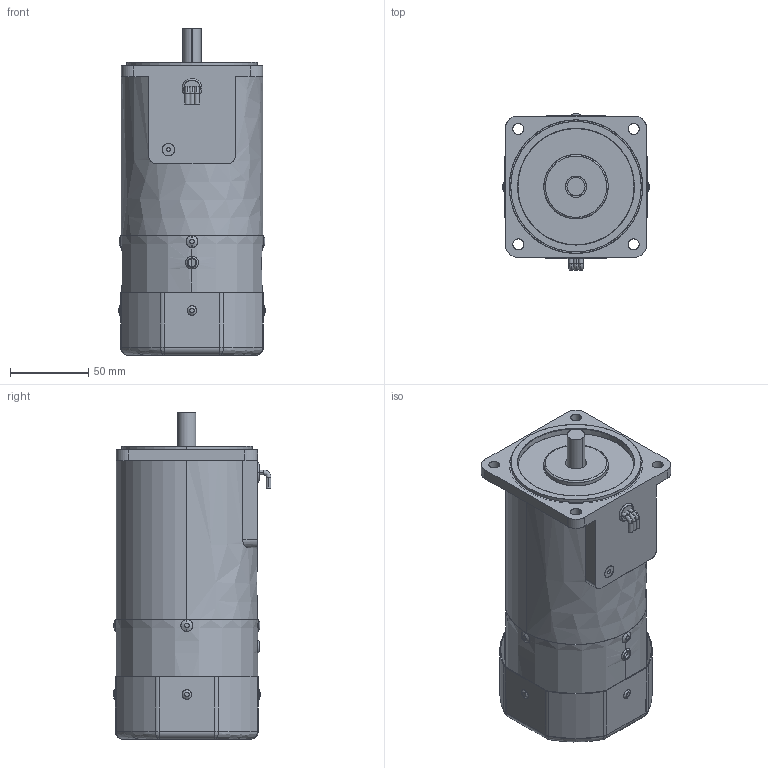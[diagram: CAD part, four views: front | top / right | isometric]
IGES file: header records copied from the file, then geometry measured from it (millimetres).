
Start section: SolidWorks IGES file using analytic representation for surfaces
Bounding box: 94 x 100.5 x 208 mm (x, y, z)
Surface area: 180711.7 mm2 (no closed solid volume)
Topology: 0 solids, 0 shells, 280 faces, 6000 edges, 5984 vertices
Faces by surface type: revolution 158, bspline 122
